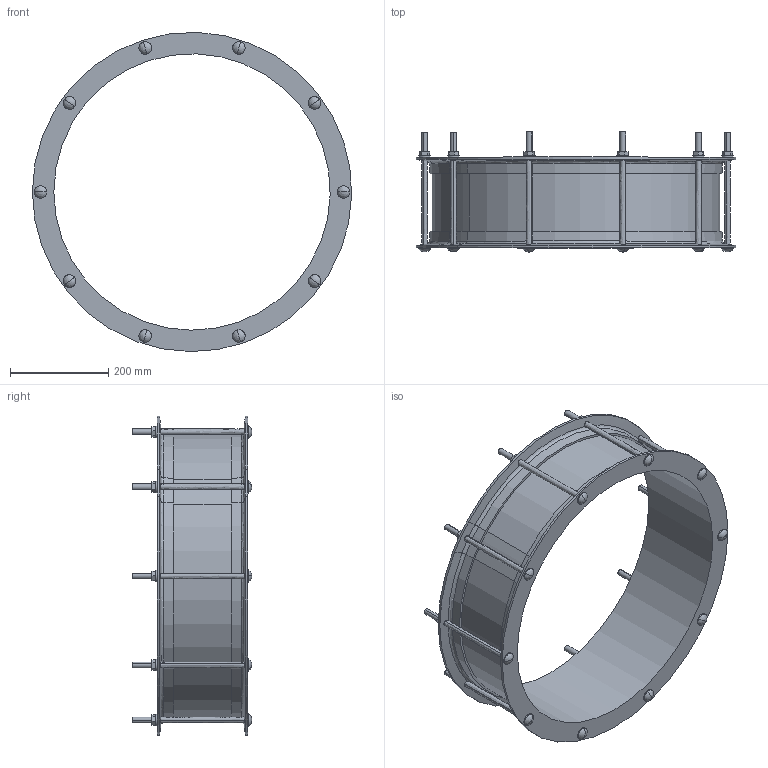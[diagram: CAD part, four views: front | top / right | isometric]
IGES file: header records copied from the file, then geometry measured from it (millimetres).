
Start section:  PTC IGES file: VJC_559.igs
Global section: file name: VJC_559.igs; native system: Creo Parametric by PTC Inc.; preprocessor: 2016130; author: mfairey; organization: Unknown; date: 20181206.115819; units: millimetre
Bounding box: 649.13 x 243.33 x 649.03 mm (x, y, z)
Surface area: 1022345.8 mm2 (no closed solid volume)
Topology: 0 solids, 0 shells, 214 faces, 1116 edges, 1096 vertices
Faces by surface type: revolution 120, bspline 94
